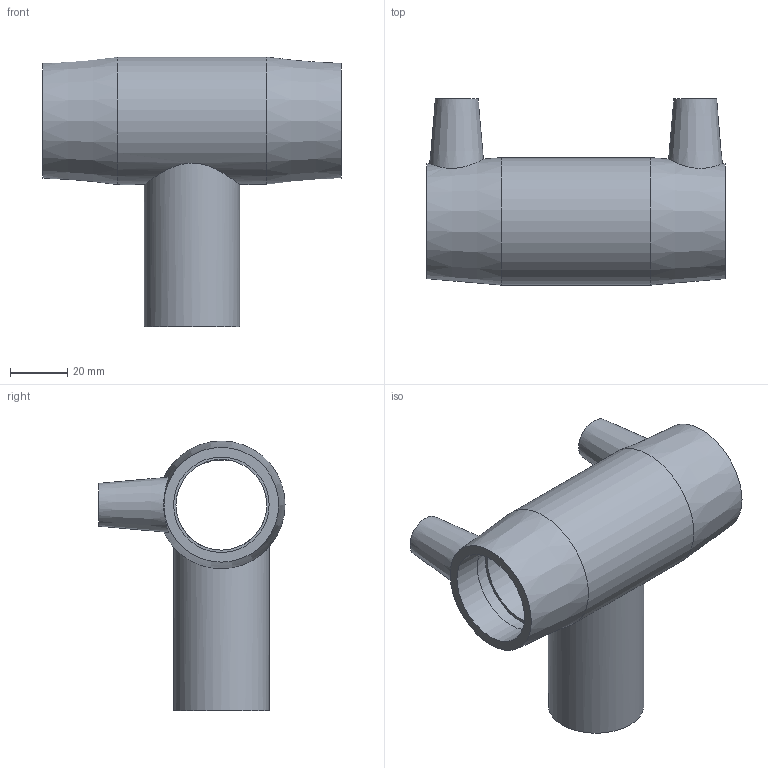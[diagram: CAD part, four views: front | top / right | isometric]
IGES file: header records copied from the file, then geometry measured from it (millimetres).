
Global section: file name: 5904B003010.ipt; native system: Autodesk Inventor 2019; preprocessor: unknown; author: KIM; date: 20210830.100942; units: inch
Bounding box: 103.89 x 64.9 x 94.11 mm (x, y, z)
Volume: 86810.5 mm3; surface area: 38074.4 mm2
Topology: 1 solids, 1 shells, 31 faces, 72 edges, 52 vertices
Faces by surface type: plane 13, revolution 10, cylinder 4, cone 4
Full cylindrical faces by diameter (mm): 4.8 x2, 33.3 x1, 44.45 x1
